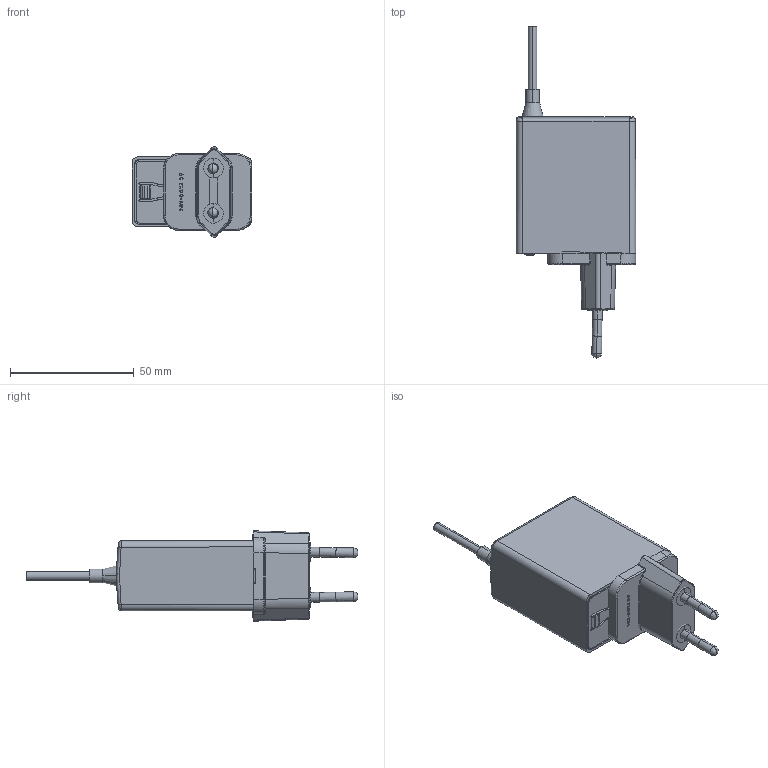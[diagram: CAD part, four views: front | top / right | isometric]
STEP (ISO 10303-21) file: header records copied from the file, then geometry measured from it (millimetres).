
FILE_DESCRIPTION(('Creo Elements/Direct Modeling STEP Export'),'2;1');
FILE_NAME('NGE18E.stp','2025-09-30T10:40:47',(''),(''),'Creo Elements/Direct Modeling STEP processor for AP214 (Solid Model)','Creo Elements/Direct Modeling 19.0G 27-Nov-2017 (C) Parametric Technology GmbH','');
FILE_SCHEMA(('AUTOMOTIVE_DESIGN { 1 0 10303 214 1 1 1 1 }'));
Length unit declared in the file: millimetre
Products named in the file (12): ZHAOFAA4CA11JC19_5_PRT_P-280860.PRT; ZHAOFAA4CA11JC19_4_PRT_P-311580.PRT; ZHAOFAA4CA11JC19_3_PRT_P-392220.PRT; ZHAOFAA4CA11JC19_2_PRT_P-405090.PRT; ZHAOFAA4CA11JC19_1_PRT_P-417770.PRT; ADMI219C5045N6QM_1_PRT_PRT_PRT.PRT
Assembly tree (6 placements, depth 2):
  ZHAOFAA4CA11JC19_5_PRT_P-280860.PRT
    ZHAOFAA4CA11JC19_5_PRT_P-280860.PRT
  ZHAOFAA4CA11JC19_4_PRT_P-311580.PRT
    ZHAOFAA4CA11JC19_4_PRT_P-311580.PRT
  ZHAOFAA4CA11JC19_3_PRT_P-392220.PRT
    ZHAOFAA4CA11JC19_3_PRT_P-392220.PRT
  ZHAOFAA4CA11JC19_2_PRT_P-405090.PRT
    ZHAOFAA4CA11JC19_2_PRT_P-405090.PRT
  ZHAOFAA4CA11JC19_1_PRT_P-417770.PRT
    ZHAOFAA4CA11JC19_1_PRT_P-417770.PRT
Bounding box: 48.32 x 133.9 x 36.46 mm (x, y, z)
Volume: 8824.1 mm3; surface area: 38108.3 mm2
Topology: 5 solids, 7 shells, 1564 faces, 4904 edges, 3377 vertices
Faces by surface type: plane 1125, cylinder 296, cone 59, bspline 56, torus 26, sphere 2
Entity records: 65710 total; most frequent: CARTESIAN_POINT 17594, ORIENTED_EDGE 9792, DIRECTION 7708, EDGE_CURVE 4902, VECTOR 3466, LINE 3466, VERTEX_POINT 3377, AXIS2_PLACEMENT_3D 2121
